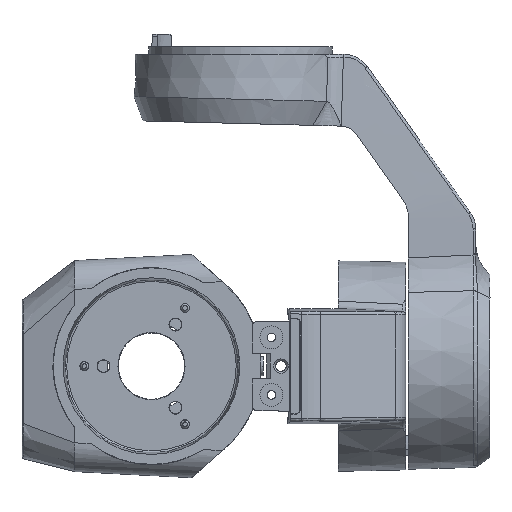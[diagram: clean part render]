
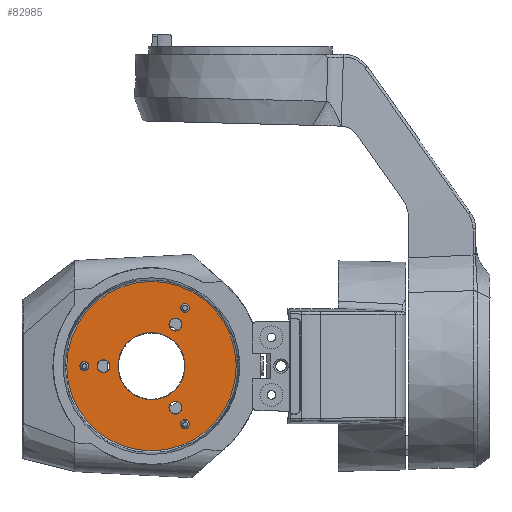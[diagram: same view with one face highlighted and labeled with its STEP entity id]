
A CAD part, front view. The second image highlights one B-rep face of the part: STEP entity #82985.
In plain terms, the highlighted planar face has unit normal (0, -1, 0) as drawn and (0, 1, 0) by its records, which use the part's own axes.
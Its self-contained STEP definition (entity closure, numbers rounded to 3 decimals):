
#58242=CARTESIAN_POINT('',(0.,7.55,0.));
#58243=DIRECTION('',(0.,-1.,0.));
#58244=DIRECTION('',(1.,0.,0.));
#58245=AXIS2_PLACEMENT_3D('',#58242,#58243,#58244);
#58250=CARTESIAN_POINT('',(0.,7.55,0.));
#58251=DIRECTION('',(0.,-1.,0.));
#58252=DIRECTION('',(-1.,0.,0.));
#58253=AXIS2_PLACEMENT_3D('',#58250,#58251,#58252);
#58258=CARTESIAN_POINT('',(-2.5,7.55,4.33));
#58259=DIRECTION('',(0.,1.,0.));
#58260=DIRECTION('',(0.,0.,-1.));
#58261=AXIS2_PLACEMENT_3D('',#58258,#58259,#58260);
#58266=CARTESIAN_POINT('',(-2.5,7.55,4.33));
#58267=DIRECTION('',(0.,1.,0.));
#58268=DIRECTION('',(0.,0.,1.));
#58269=AXIS2_PLACEMENT_3D('',#58266,#58267,#58268);
#58274=CARTESIAN_POINT('',(-2.5,7.55,-4.33));
#58275=DIRECTION('',(0.,1.,0.));
#58276=DIRECTION('',(0.,0.,-1.));
#58277=AXIS2_PLACEMENT_3D('',#58274,#58275,#58276);
#58282=CARTESIAN_POINT('',(-2.5,7.55,-4.33));
#58283=DIRECTION('',(0.,1.,0.));
#58284=DIRECTION('',(0.,0.,1.));
#58285=AXIS2_PLACEMENT_3D('',#58282,#58283,#58284);
#58290=CARTESIAN_POINT('',(0.,7.55,0.));
#58291=DIRECTION('',(0.,1.,0.));
#58292=DIRECTION('',(0.,0.,-1.));
#58293=AXIS2_PLACEMENT_3D('',#58290,#58291,#58292);
#58298=CARTESIAN_POINT('',(0.,7.55,0.));
#58299=DIRECTION('',(0.,1.,0.));
#58300=DIRECTION('',(0.,0.,1.));
#58301=AXIS2_PLACEMENT_3D('',#58298,#58299,#58300);
#58306=CARTESIAN_POINT('',(-3.5,7.55,6.062));
#58307=DIRECTION('',(0.,1.,0.));
#58308=DIRECTION('',(0.,0.,-1.));
#58309=AXIS2_PLACEMENT_3D('',#58306,#58307,#58308);
#58314=CARTESIAN_POINT('',(-3.5,7.55,6.062));
#58315=DIRECTION('',(0.,1.,0.));
#58316=DIRECTION('',(0.,0.,1.));
#58317=AXIS2_PLACEMENT_3D('',#58314,#58315,#58316);
#58322=CARTESIAN_POINT('',(7.,7.55,0.));
#58323=DIRECTION('',(0.,1.,0.));
#58324=DIRECTION('',(0.,0.,-1.));
#58325=AXIS2_PLACEMENT_3D('',#58322,#58323,#58324);
#58330=CARTESIAN_POINT('',(7.,7.55,0.));
#58331=DIRECTION('',(0.,1.,0.));
#58332=DIRECTION('',(0.,0.,1.));
#58333=AXIS2_PLACEMENT_3D('',#58330,#58331,#58332);
#58338=CARTESIAN_POINT('',(-3.5,7.55,-6.062));
#58339=DIRECTION('',(0.,1.,0.));
#58340=DIRECTION('',(0.,0.,-1.));
#58341=AXIS2_PLACEMENT_3D('',#58338,#58339,#58340);
#58346=CARTESIAN_POINT('',(-3.5,7.55,-6.062));
#58347=DIRECTION('',(0.,1.,0.));
#58348=DIRECTION('',(0.,0.,1.));
#58349=AXIS2_PLACEMENT_3D('',#58346,#58347,#58348);
#58354=CARTESIAN_POINT('',(5.,7.55,0.));
#58355=DIRECTION('',(0.,1.,0.));
#58356=DIRECTION('',(0.,0.,-1.));
#58357=AXIS2_PLACEMENT_3D('',#58354,#58355,#58356);
#58362=CARTESIAN_POINT('',(5.,7.55,0.));
#58363=DIRECTION('',(0.,1.,0.));
#58364=DIRECTION('',(0.,0.,1.));
#58365=AXIS2_PLACEMENT_3D('',#58362,#58363,#58364);
#58370=CARTESIAN_POINT('',(0.,7.55,0.));
#58371=DIRECTION('',(0.,1.,0.));
#58372=DIRECTION('',(-1.,0.,0.));
#58373=AXIS2_PLACEMENT_3D('',#58370,#58371,#58372);
#58402=CARTESIAN_POINT('',(0.,7.55,0.));
#58403=DIRECTION('',(0.,1.,0.));
#58404=DIRECTION('',(1.,0.,0.));
#58405=AXIS2_PLACEMENT_3D('',#58402,#58403,#58404);
#59457=CARTESIAN_POINT('',(-8.832,7.55,0.));
#59458=CARTESIAN_POINT('',(8.831,7.55,-0.143));
#59459=VERTEX_POINT('',#59457);
#59460=VERTEX_POINT('',#59458);
#59461=CARTESIAN_POINT('',(8.832,7.55,0.));
#59462=VERTEX_POINT('',#59461);
#59463=CARTESIAN_POINT('',(-8.831,7.55,0.143));
#59464=VERTEX_POINT('',#59463);
#59465=CARTESIAN_POINT('',(-2.5,7.55,3.655));
#59466=CARTESIAN_POINT('',(-2.5,7.55,5.005));
#59467=VERTEX_POINT('',#59465);
#59468=VERTEX_POINT('',#59466);
#59469=CARTESIAN_POINT('',(-2.5,7.55,-5.005));
#59470=CARTESIAN_POINT('',(-2.5,7.55,-3.655));
#59471=VERTEX_POINT('',#59469);
#59472=VERTEX_POINT('',#59470);
#59473=CARTESIAN_POINT('',(0.,7.55,-3.5));
#59474=CARTESIAN_POINT('',(0.,7.55,3.5));
#59475=VERTEX_POINT('',#59473);
#59476=VERTEX_POINT('',#59474);
#59477=CARTESIAN_POINT('',(-3.5,7.55,5.587));
#59478=CARTESIAN_POINT('',(-3.5,7.55,6.537));
#59479=VERTEX_POINT('',#59477);
#59480=VERTEX_POINT('',#59478);
#59481=CARTESIAN_POINT('',(7.,7.55,-0.475));
#59482=CARTESIAN_POINT('',(7.,7.55,0.475));
#59483=VERTEX_POINT('',#59481);
#59484=VERTEX_POINT('',#59482);
#59485=CARTESIAN_POINT('',(-3.5,7.55,-6.537));
#59486=CARTESIAN_POINT('',(-3.5,7.55,-5.587));
#59487=VERTEX_POINT('',#59485);
#59488=VERTEX_POINT('',#59486);
#59489=CARTESIAN_POINT('',(5.,7.55,-0.675));
#59490=CARTESIAN_POINT('',(5.,7.55,0.675));
#59491=VERTEX_POINT('',#59489);
#59492=VERTEX_POINT('',#59490);
#82932=CARTESIAN_POINT('',(0.,7.55,0.));
#82933=DIRECTION('',(0.,1.,0.));
#82934=DIRECTION('',(1.,0.,0.));
#82935=AXIS2_PLACEMENT_3D('',#82932,#82933,#82934);
#82936=PLANE('',#82935);
#82938=ORIENTED_EDGE('',*,*,#82937,.T.);
#82940=ORIENTED_EDGE('',*,*,#82939,.F.);
#82942=ORIENTED_EDGE('',*,*,#82941,.T.);
#82944=ORIENTED_EDGE('',*,*,#82943,.F.);
#82945=EDGE_LOOP('',(#82938,#82940,#82942,#82944));
#82946=FACE_OUTER_BOUND('',#82945,.F.);
#82947=ORIENTED_EDGE('',*,*,#82912,.T.);
#82948=ORIENTED_EDGE('',*,*,#82926,.T.);
#82949=EDGE_LOOP('',(#82947,#82948));
#82950=FACE_BOUND('',#82949,.F.);
#82952=ORIENTED_EDGE('',*,*,#82951,.T.);
#82954=ORIENTED_EDGE('',*,*,#82953,.T.);
#82955=EDGE_LOOP('',(#82952,#82954));
#82956=FACE_BOUND('',#82955,.F.);
#82957=ORIENTED_EDGE('',*,*,#82097,.T.);
#82958=ORIENTED_EDGE('',*,*,#82072,.T.);
#82959=EDGE_LOOP('',(#82957,#82958));
#82960=FACE_BOUND('',#82959,.F.);
#82962=ORIENTED_EDGE('',*,*,#82961,.T.);
#82964=ORIENTED_EDGE('',*,*,#82963,.T.);
#82965=EDGE_LOOP('',(#82962,#82964));
#82966=FACE_BOUND('',#82965,.F.);
#82968=ORIENTED_EDGE('',*,*,#82967,.T.);
#82970=ORIENTED_EDGE('',*,*,#82969,.T.);
#82971=EDGE_LOOP('',(#82968,#82970));
#82972=FACE_BOUND('',#82971,.F.);
#82974=ORIENTED_EDGE('',*,*,#82973,.T.);
#82976=ORIENTED_EDGE('',*,*,#82975,.T.);
#82977=EDGE_LOOP('',(#82974,#82976));
#82978=FACE_BOUND('',#82977,.F.);
#82980=ORIENTED_EDGE('',*,*,#82979,.T.);
#82982=ORIENTED_EDGE('',*,*,#82981,.T.);
#82983=EDGE_LOOP('',(#82980,#82982));
#82984=FACE_BOUND('',#82983,.F.);
#82985=ADVANCED_FACE('',(#82946,#82950,#82956,#82960,#82966,#82972,#82978,
#82984),#82936,.T.);
#58246=CIRCLE('',#58245,8.832);
#58254=CIRCLE('',#58253,8.832);
#58262=CIRCLE('',#58261,0.675);
#58270=CIRCLE('',#58269,0.675);
#58278=CIRCLE('',#58277,0.675);
#58286=CIRCLE('',#58285,0.675);
#58294=CIRCLE('',#58293,3.5);
#58302=CIRCLE('',#58301,3.5);
#58310=CIRCLE('',#58309,0.475);
#58318=CIRCLE('',#58317,0.475);
#58326=CIRCLE('',#58325,0.475);
#58334=CIRCLE('',#58333,0.475);
#58342=CIRCLE('',#58341,0.475);
#58350=CIRCLE('',#58349,0.475);
#58358=CIRCLE('',#58357,0.675);
#58366=CIRCLE('',#58365,0.675);
#58374=CIRCLE('',#58373,8.832);
#58406=CIRCLE('',#58405,8.832);
#82072=EDGE_CURVE('',#59476,#59475,#58302,.T.);
#82097=EDGE_CURVE('',#59475,#59476,#58294,.T.);
#82912=EDGE_CURVE('',#59467,#59468,#58262,.T.);
#82926=EDGE_CURVE('',#59468,#59467,#58270,.T.);
#82937=EDGE_CURVE('',#59462,#59464,#58246,.T.);
#82939=EDGE_CURVE('',#59459,#59464,#58374,.T.);
#82941=EDGE_CURVE('',#59459,#59460,#58254,.T.);
#82943=EDGE_CURVE('',#59462,#59460,#58406,.T.);
#82951=EDGE_CURVE('',#59471,#59472,#58278,.T.);
#82953=EDGE_CURVE('',#59472,#59471,#58286,.T.);
#82961=EDGE_CURVE('',#59479,#59480,#58310,.T.);
#82963=EDGE_CURVE('',#59480,#59479,#58318,.T.);
#82967=EDGE_CURVE('',#59483,#59484,#58326,.T.);
#82969=EDGE_CURVE('',#59484,#59483,#58334,.T.);
#82973=EDGE_CURVE('',#59487,#59488,#58342,.T.);
#82975=EDGE_CURVE('',#59488,#59487,#58350,.T.);
#82979=EDGE_CURVE('',#59491,#59492,#58358,.T.);
#82981=EDGE_CURVE('',#59492,#59491,#58366,.T.);
